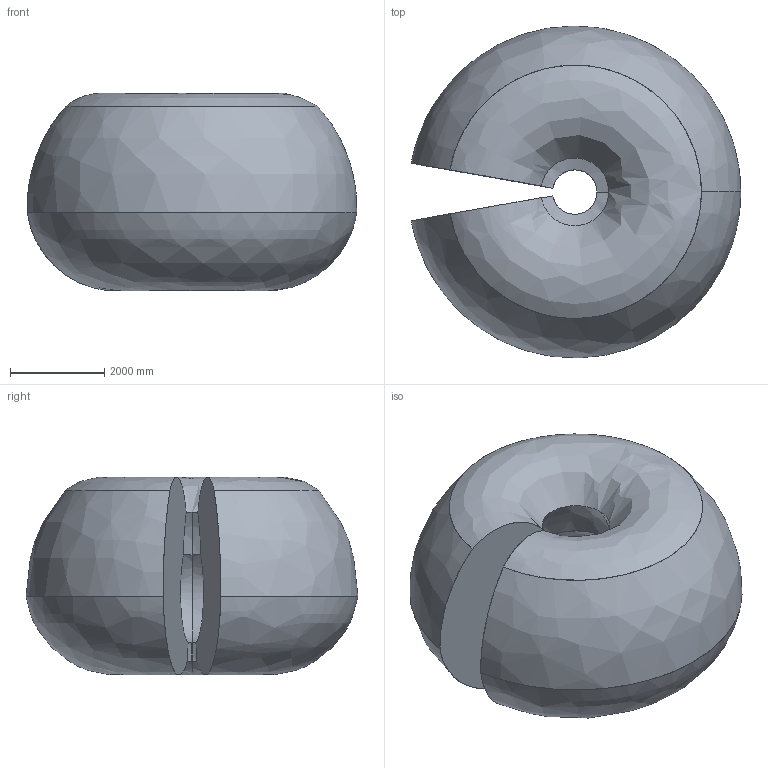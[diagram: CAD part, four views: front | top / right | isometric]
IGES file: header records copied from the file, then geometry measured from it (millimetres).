
Start section: SolidWorks IGES file using analytic representation for surfaces
Global section: file name: C:\Users\seamsto1\Desktop\77XX\Working space\IRB77X0_All-350_OC_00_Working-space.IGS; native system: SolidWorks 2022; preprocessor: SolidWorks 2022; author: SEAMSTO1; date: 240207.130753; units: millimetre
Bounding box: 6995.68 x 7047.14 x 4198.61 mm (x, y, z)
Surface area: 163448562.6 mm2 (no closed solid volume)
Topology: 0 solids, 0 shells, 13 faces, 294 edges, 294 vertices
Faces by surface type: bspline 13
